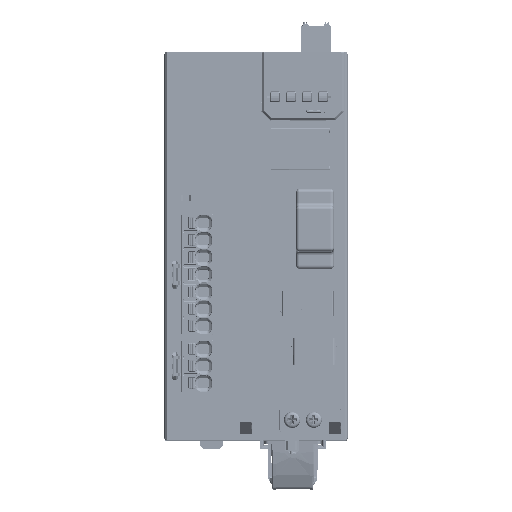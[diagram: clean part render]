
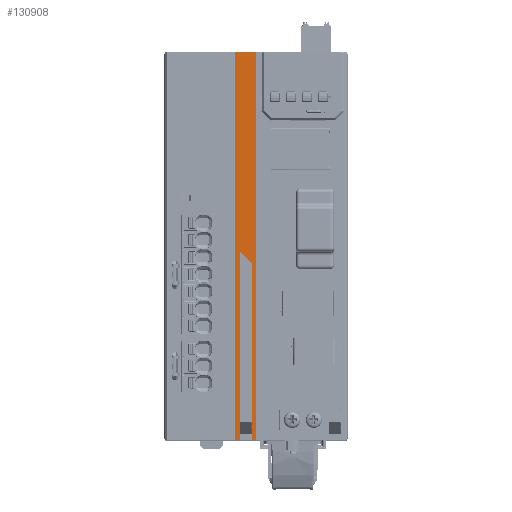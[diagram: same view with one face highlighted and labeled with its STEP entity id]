
A CAD part, top view. The second image highlights one B-rep face of the part: STEP entity #130908.
In plain terms, the highlighted planar face has unit normal (0, 0, 1).
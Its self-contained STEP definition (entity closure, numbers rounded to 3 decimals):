
#13966=CARTESIAN_POINT('',(-29.483,-84.797,
0.));
#14107=DIRECTION('',(1.,0.,0.));
#14108=VECTOR('',#14107,1.793);
#14109=CARTESIAN_POINT('',(-22.311,-84.55,0.));
#14110=LINE('',#14109,#14108);
#14111=CARTESIAN_POINT('',(-20.517,-84.55,
0.));
#14128=CARTESIAN_POINT('',(-22.311,-84.55,0.));
#14180=DIRECTION('',(0.,-1.,0.));
#14181=VECTOR('',#14180,169.3);
#14182=CARTESIAN_POINT('',(-20.517,84.75,0.));
#14183=LINE('',#14182,#14181);
#14184=DIRECTION('',(-0.035,0.999,0.));
#14185=VECTOR('',#14184,2.352);
#14186=CARTESIAN_POINT('',(-22.311,-84.55,0.));
#14187=LINE('',#14186,#14185);
#14188=DIRECTION('',(0.,1.,0.));
#14189=VECTOR('',#14188,74.736);
#14190=CARTESIAN_POINT('',(-22.393,-82.2,0.));
#14191=LINE('',#14190,#14189);
#14192=DIRECTION('',(-0.707,0.707,0.));
#14193=VECTOR('',#14192,7.371);
#14194=CARTESIAN_POINT('',(-22.393,-7.464,0.));
#14195=LINE('',#14194,#14193);
#14196=DIRECTION('',(0.,-1.,0.));
#14197=VECTOR('',#14196,79.947);
#14198=CARTESIAN_POINT('',(-27.607,-2.253,0.));
#14199=LINE('',#14198,#14197);
#14200=DIRECTION('',(-0.035,-0.999,0.));
#14201=VECTOR('',#14200,2.597);
#14202=CARTESIAN_POINT('',(-27.607,-82.2,0.));
#14203=LINE('',#14202,#14201);
#14204=DIRECTION('',(-1.,-0.001,0.));
#14205=VECTOR('',#14204,1.785);
#14206=CARTESIAN_POINT('',(-27.698,-84.796,
0.));
#14207=LINE('',#14206,#14205);
#14208=DIRECTION('',(0.,1.,0.));
#14209=VECTOR('',#14208,169.547);
#14210=CARTESIAN_POINT('',(-29.483,-84.797,
0.));
#14211=LINE('',#14210,#14209);
#14216=DIRECTION('',(-1.,0.,0.));
#14217=VECTOR('',#14216,8.965);
#14218=CARTESIAN_POINT('',(-20.517,84.75,0.));
#14219=LINE('',#14218,#14217);
#100897=VERTEX_POINT('',#13966);
#100898=CARTESIAN_POINT('',(-27.698,-84.796,
0.));
#100899=VERTEX_POINT('',#100898);
#100944=VERTEX_POINT('',#14111);
#100945=CARTESIAN_POINT('',(-20.517,84.75,0.));
#100946=VERTEX_POINT('',#100945);
#100947=VERTEX_POINT('',#14128);
#100951=CARTESIAN_POINT('',(-22.393,-82.2,0.));
#100952=VERTEX_POINT('',#100951);
#100963=CARTESIAN_POINT('',(-27.607,-82.2,0.));
#100964=VERTEX_POINT('',#100963);
#100965=CARTESIAN_POINT('',(-29.483,84.75,0.));
#100966=VERTEX_POINT('',#100965);
#100967=CARTESIAN_POINT('',(-22.393,-7.464,0.));
#100968=VERTEX_POINT('',#100967);
#100969=CARTESIAN_POINT('',(-27.607,-2.253,0.));
#100970=VERTEX_POINT('',#100969);
#130886=CARTESIAN_POINT('',(-25.,-0.023,0.));
#130887=DIRECTION('',(0.,0.,1.));
#130888=DIRECTION('',(1.,0.,0.));
#130889=AXIS2_PLACEMENT_3D('',#130886,#130887,#130888);
#130890=PLANE('',#130889);
#130892=ORIENTED_EDGE('',*,*,#130891,.F.);
#130893=ORIENTED_EDGE('',*,*,#130751,.T.);
#130894=ORIENTED_EDGE('',*,*,#130776,.F.);
#130895=ORIENTED_EDGE('',*,*,#130801,.T.);
#130897=ORIENTED_EDGE('',*,*,#130896,.T.);
#130899=ORIENTED_EDGE('',*,*,#130898,.T.);
#130901=ORIENTED_EDGE('',*,*,#130900,.T.);
#130902=ORIENTED_EDGE('',*,*,#130872,.T.);
#130903=ORIENTED_EDGE('',*,*,#130556,.T.);
#130905=ORIENTED_EDGE('',*,*,#130904,.T.);
#130906=EDGE_LOOP('',(#130892,#130893,#130894,#130895,#130897,#130899,#130901,
#130902,#130903,#130905));
#130907=FACE_OUTER_BOUND('',#130906,.F.);
#130556=EDGE_CURVE('',#100899,#100897,#14207,.T.);
#130751=EDGE_CURVE('',#100946,#100944,#14183,.T.);
#130776=EDGE_CURVE('',#100947,#100944,#14110,.T.);
#130801=EDGE_CURVE('',#100947,#100952,#14187,.T.);
#130872=EDGE_CURVE('',#100964,#100899,#14203,.T.);
#130891=EDGE_CURVE('',#100946,#100966,#14219,.T.);
#130896=EDGE_CURVE('',#100952,#100968,#14191,.T.);
#130898=EDGE_CURVE('',#100968,#100970,#14195,.T.);
#130900=EDGE_CURVE('',#100970,#100964,#14199,.T.);
#130904=EDGE_CURVE('',#100897,#100966,#14211,.T.);
#130908=ADVANCED_FACE('',(#130907),#130890,.T.);
